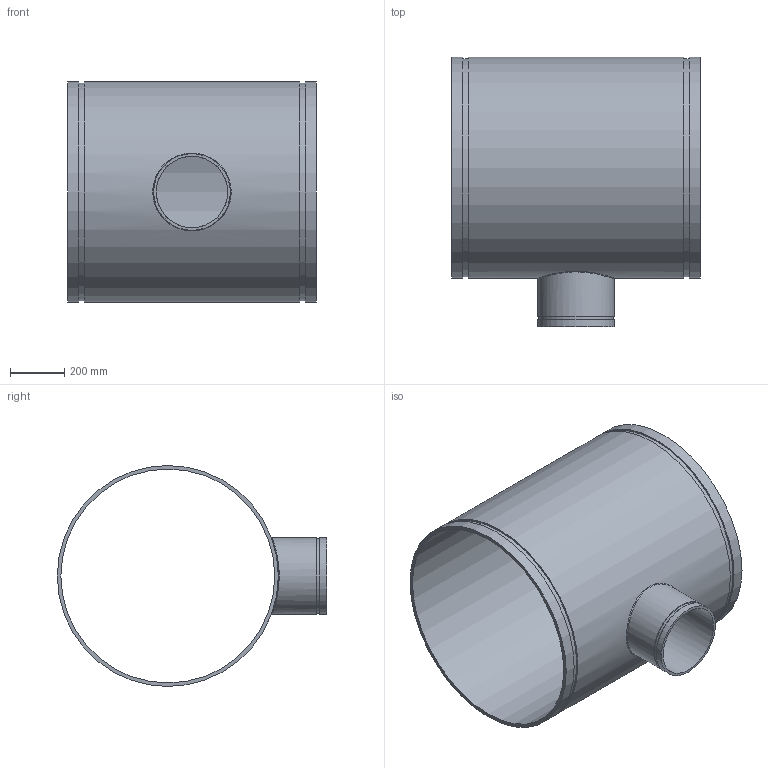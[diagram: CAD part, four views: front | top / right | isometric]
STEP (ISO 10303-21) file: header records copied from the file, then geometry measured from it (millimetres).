
FILE_DESCRIPTION(/* description */ ('VIC REDUCING TEE No 25-C','CAx-IF Rec.Pracs.---Representation and Presentation of Product Manufacturing Information (PMI)---4.0---2014-10-13'),/* implementation_level */ '2;1');
FILE_NAME(/* name */ 'C:\Users\Vjadhav\AppData\Roaming\Autodesk\ApplicationPlugins\Back Up\Victaulic_AWWA_Tee Reducing_No 25-C (DRG)\Victaulic_AWWA_Tee Reducing_No 25-C (DRG)_30.0x10.0 (750x250).stp',/* time_stamp */ '2020-08-18T18:19:12+06:00',/* author */ ('CORINNE GRAY'),/* organization */ ('Victaulic'),/* preprocessor_version */ 'ST-DEVELOPER v17.2',/* originating_system */ 'Autodesk Inventor 2019',/* authorisation */ '');
FILE_SCHEMA (('AP242_MANAGED_MODEL_BASED_3D_ENGINEERING_MIM_LF { 1 0 10303 442 1 1 4 }'));
Length unit declared in the file: inch
Products named in the file (1): 25C-30.0x10.0
Bounding box: 914.4 x 990.6 x 812.8 mm (x, y, z)
Volume: 30027418.7 mm3; surface area: 4947437.6 mm2
Topology: 1 solids, 1 shells, 20 faces, 44 edges, 33 vertices
Faces by surface type: cylinder 10, plane 9, bspline 1
Full cylindrical faces by diameter (mm): 262.636 x1, 274.65 x1, 281.94 x2, 786.892 x1, 801.37 x2, 812.8 x3
Entity records: 989 total; most frequent: CARTESIAN_POINT 365, DIRECTION 135, ORIENTED_EDGE 90, AXIS2_PLACEMENT_3D 62, EDGE_CURVE 45, VERTEX_POINT 34, EDGE_LOOP 31, CIRCLE 29
